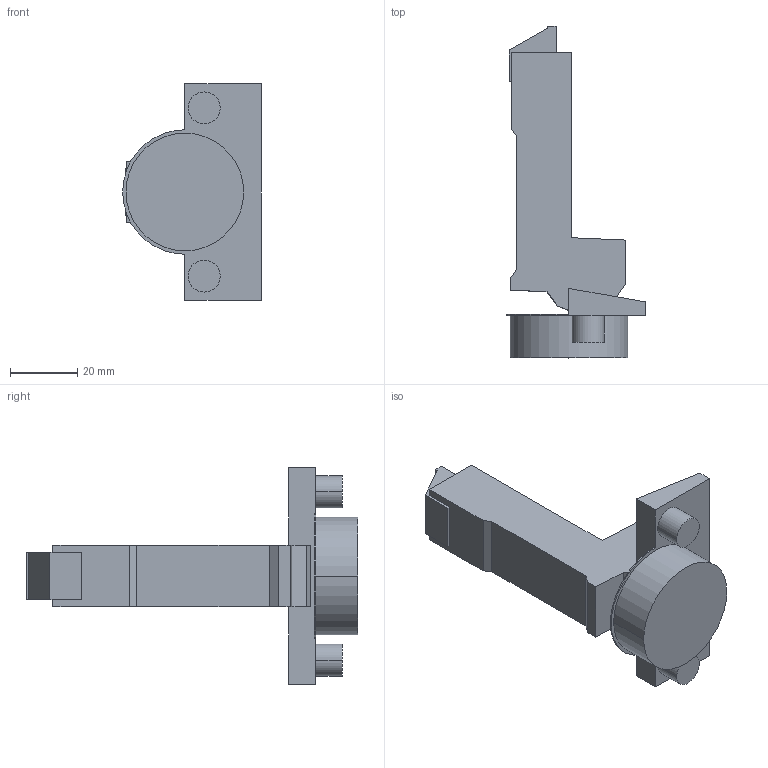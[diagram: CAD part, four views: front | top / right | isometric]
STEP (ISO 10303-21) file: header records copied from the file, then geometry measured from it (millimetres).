
FILE_DESCRIPTION (( 'STEP AP214' ), '1' );
FILE_NAME ('Scharnier TS Impresso 95° HS_BB, K19.step', '2010-12-06T09:52:10', ( 'grass' ), ( '' ), 'SwSTEP 2.0', 'SolidWorks 2010', '' );
FILE_SCHEMA (( 'AUTOMOTIVE_DESIGN' ));
Length unit declared in the file: millimetre
Products named in the file (1): Scharnier TS Impresso 95° HS_BB, K19
Bounding box: 41.25 x 98.7 x 64.5 mm (x, y, z)
Volume: 50164.1 mm3; surface area: 13670 mm2
Topology: 1 solids, 3 shells, 61 faces, 147 edges, 98 vertices
Faces by surface type: plane 43, cylinder 18
Entity records: 1807 total; most frequent: CARTESIAN_POINT 307, DIRECTION 307, ORIENTED_EDGE 294, EDGE_CURVE 147, VECTOR 111, LINE 111, VERTEX_POINT 98, AXIS2_PLACEMENT_3D 98
